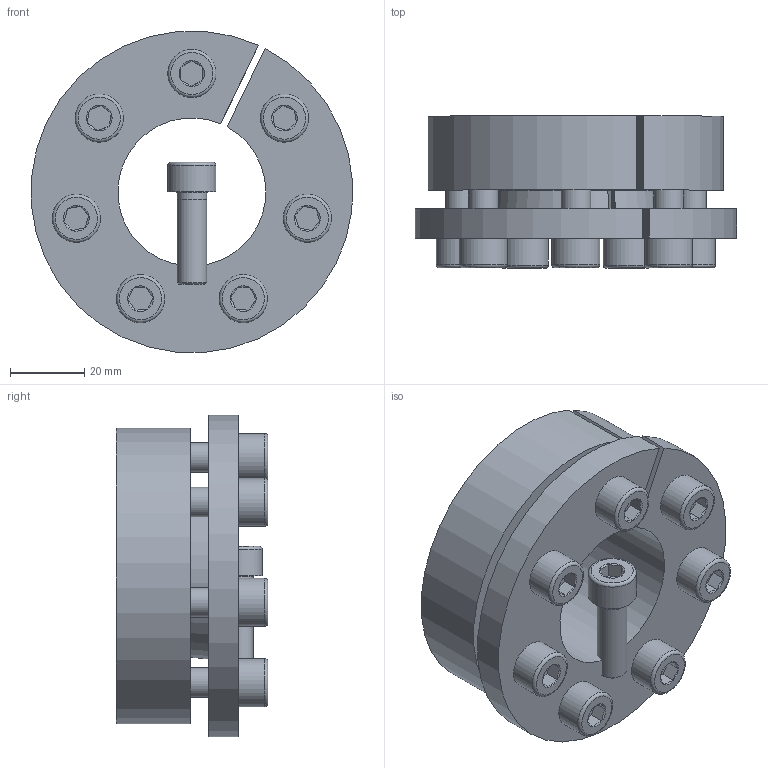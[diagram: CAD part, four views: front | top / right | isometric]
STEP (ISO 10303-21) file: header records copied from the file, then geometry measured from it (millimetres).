
FILE_DESCRIPTION( ( 'Unknown' ), '1' );
FILE_NAME( 'C:/Dokumente und Einstellungen/Sven/Desktop/15/KBS 15 - 40 x 80.stp', 'Unknown', ( 'Unknown' ), ( 'Unknown' ), 'XStep 1.0', 'Unknown', ' ' );
FILE_SCHEMA( ( 'automotive_design' ) );
Length unit declared in the file: millimetre
Products named in the file (3): Assem1; ISO EN DIN 4762 M8x25_23; KBS 15 - 40 x 80_0
Bounding box: 86.78 x 41 x 86.75 mm (x, y, z)
Volume: 226919.3 mm3; surface area: 75312 mm2
Topology: 10 solids, 10 shells, 252 faces, 524 edges, 324 vertices
Faces by surface type: plane 110, cylinder 66, cone 60, torus 16
Full cylindrical faces by diameter (mm): 6.647 x14, 7 x8, 8 x16, 9 x14, 13 x8
Entity records: 1694 total; most frequent: CARTESIAN_POINT 272, DIRECTION 260, ORIENTED_EDGE 186, AXIS2_PLACEMENT_3D 115, EDGE_LOOP 104, EDGE_CURVE 93, FACE_OUTER_BOUND 71, VERTEX_POINT 71
